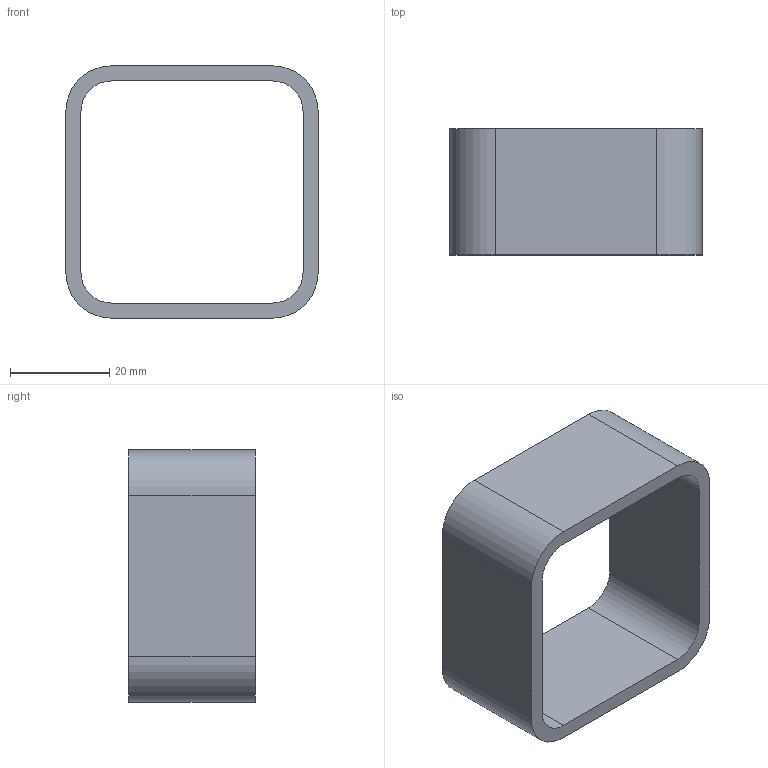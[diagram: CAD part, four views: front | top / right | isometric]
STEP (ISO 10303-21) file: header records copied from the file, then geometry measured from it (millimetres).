
FILE_DESCRIPTION(/* description */ (''),/* implementation_level */ '2;1');
FILE_NAME(/* name */ 'CR-REC-200-200-120.step',/* time_stamp */ '2025-04-30T13:42:20-07:00',/* author */ (''),/* organization */ (''),/* preprocessor_version */ 'ST-DEVELOPER v20.1',/* originating_system */ 'Autodesk Translation Framework v14.4.0.0',/* authorisation */ '');
FILE_SCHEMA (('AUTOMOTIVE_DESIGN { 1 0 10303 214 3 1 1 }'));
Length unit declared in the file: inch
Products named in the file (1): CR-REC-200-200-120
Bounding box: 50.8 x 25.4 x 50.8 mm (x, y, z)
Volume: 13774.9 mm3; surface area: 10123.3 mm2
Topology: 1 solids, 1 shells, 18 faces, 48 edges, 32 vertices
Faces by surface type: plane 10, cylinder 8
Entity records: 607 total; most frequent: DIRECTION 102, CARTESIAN_POINT 99, ORIENTED_EDGE 96, EDGE_CURVE 48, AXIS2_PLACEMENT_3D 35, LINE 32, VECTOR 32, VERTEX_POINT 32
